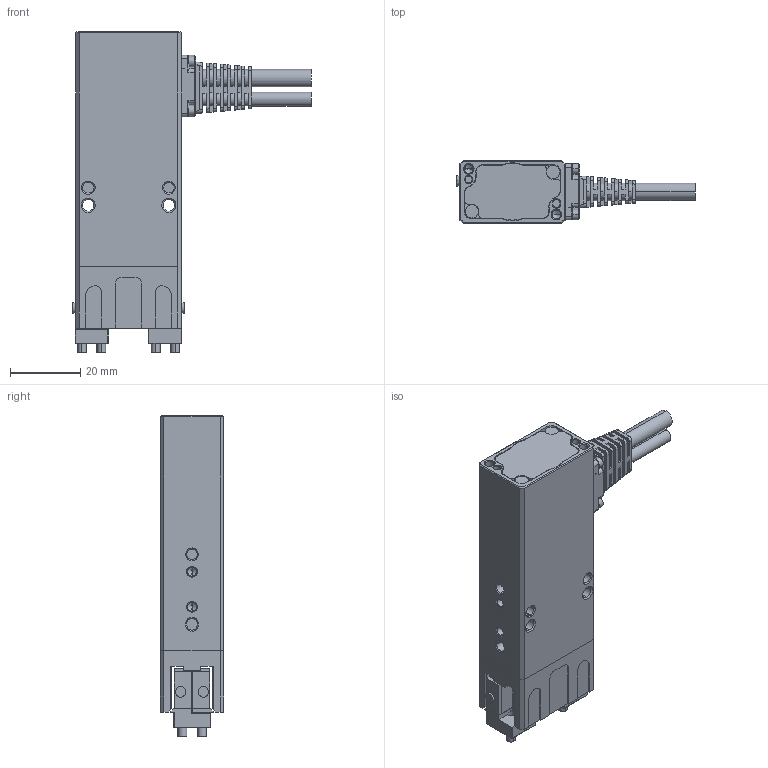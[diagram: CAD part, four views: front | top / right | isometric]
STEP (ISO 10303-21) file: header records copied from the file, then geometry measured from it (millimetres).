
FILE_DESCRIPTION (( 'STEP AP214' ), '1' );
FILE_NAME ('PGE-15-10-O-S.STEP', '2023-07-19T03:49:09', ( '' ), ( '' ), 'SwSTEP 2.0', 'SolidWorks 2020', '' );
FILE_SCHEMA (( 'AUTOMOTIVE_DESIGN' ));
Length unit declared in the file: millimetre
Products named in the file (3): 忒硌價釱; 耜堤俋褲; PGE-15-10-O-S
Assembly tree (3 placements, depth 2):
  PGE-15-10-O-S
    耜堤俋褲
    忒硌價釱  x2
Bounding box: 68 x 18 x 91.4 mm (x, y, z)
Volume: 45794.4 mm3; surface area: 21171.2 mm2
Topology: 21 solids, 21 shells, 936 faces, 2345 edges, 1459 vertices
Faces by surface type: plane 468, cylinder 308, cone 160
Entity records: 33918 total; most frequent: CARTESIAN_POINT 4673, DIRECTION 4309, ORIENTED_EDGE 4188, EDGE_CURVE 2094, AXIS2_PLACEMENT_3D 1470, VECTOR 1369, LINE 1369, VERTEX_POINT 1327
